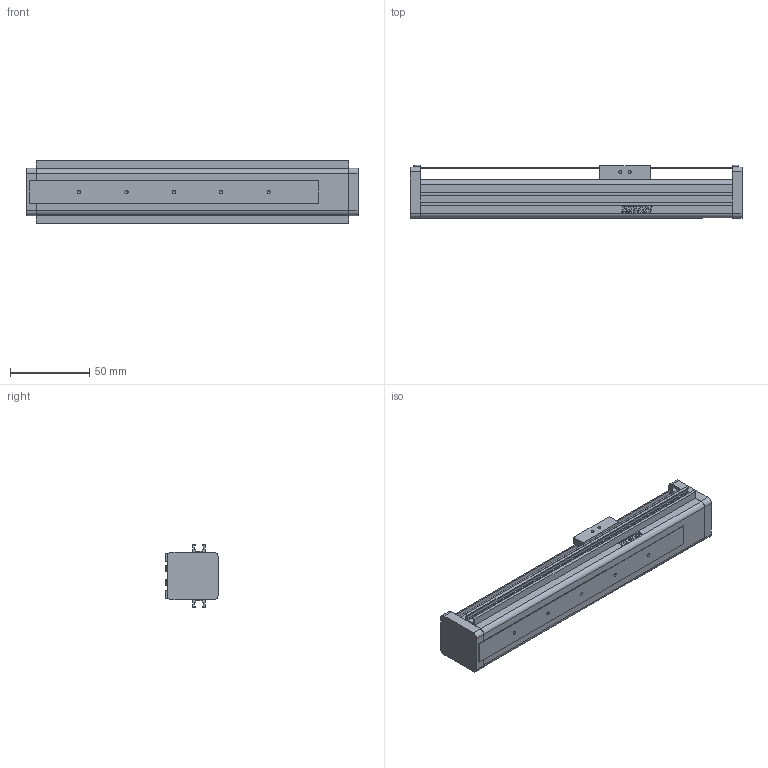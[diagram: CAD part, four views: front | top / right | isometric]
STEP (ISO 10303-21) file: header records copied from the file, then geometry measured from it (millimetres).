
FILE_DESCRIPTION(/* description */ (''),/* implementation_level */ '2;1');
FILE_NAME(/* name */ 'D:\混合母檔20191031\混和母檔\混和母檔\bin\Debug\Download\3D\KE301C-100AF0\KE301C-100AF0.stp',/* time_stamp */ '2019-11-04T13:28:23+08:00',/* author */ ('user'),/* organization */ (''),/* preprocessor_version */ 'ST-DEVELOPER v16.13',/* originating_system */ 'Autodesk Inventor 2018',/* authorisation */ '');
FILE_SCHEMA (('AUTOMOTIVE_DESIGN { 1 0 10303 214 3 1 1 }'));
Length unit declared in the file: millimetre
Products named in the file (3): KE301C-100AF0; KE30-F0-BP; KE30-SL
Assembly tree (2 placements, depth 2):
  KE301C-100AF0
    KE30-F0-BP
    KE30-SL
Bounding box: 210 x 33.67 x 39.6 mm (x, y, z)
Volume: 159336.6 mm3; surface area: 45590.8 mm2
Topology: 2 solids, 6 shells, 455 faces, 1242 edges, 815 vertices
Faces by surface type: plane 264, bspline 114, cylinder 52, cone 17, torus 8
Full cylindrical faces by diameter (mm): 2.013 x4, 2.113 x5, 2.184 x4, 2.459 x4, 2.5 x4, 3 x4, 4 x1, 4.166 x4, 5 x2, 6 x2, 18 x1, 22 x1
Entity records: 18455 total; most frequent: CARTESIAN_POINT 7916, ORIENTED_EDGE 2306, DIRECTION 1714, EDGE_CURVE 1153, VERTEX_POINT 787, LINE 784, VECTOR 784, EDGE_LOOP 548
